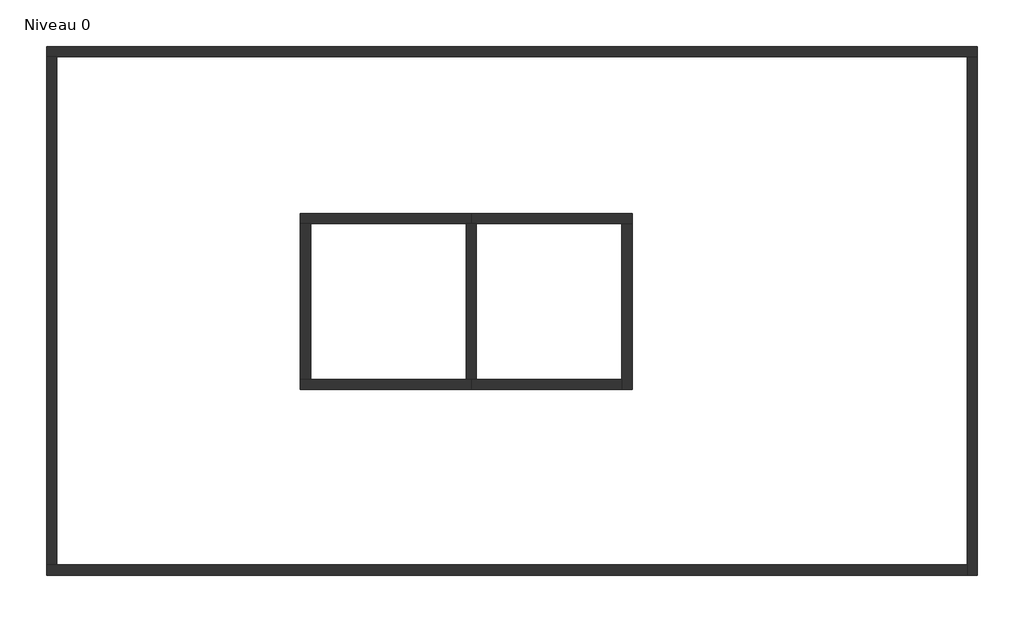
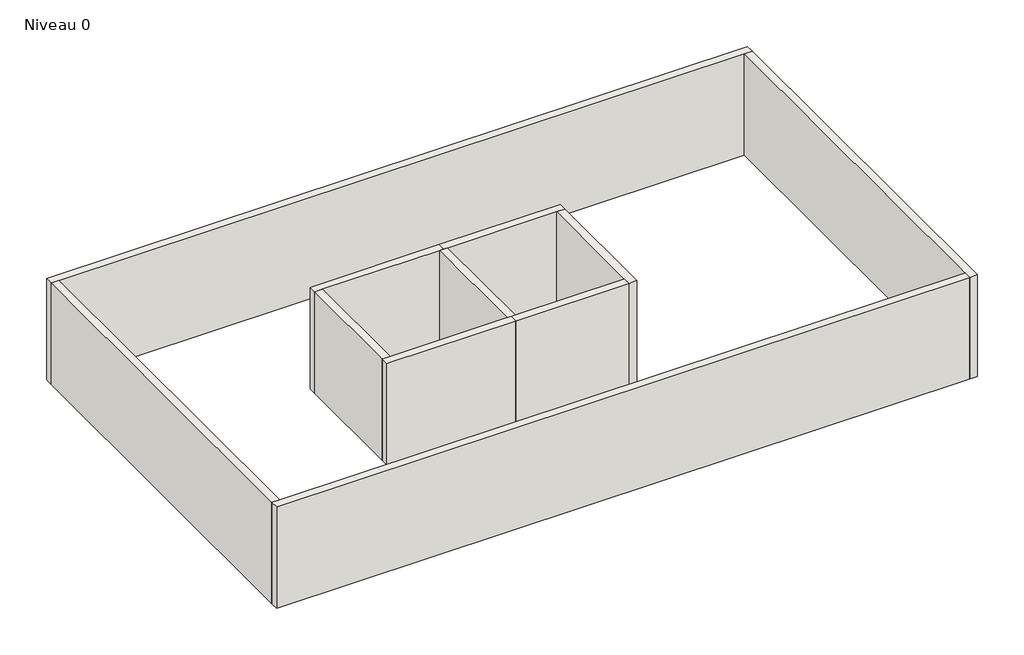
# One storey: 11 walls.
"""IFC4 building model written with IfcOpenShell, lengths in millimetres."""

from ifc_helpers import new_model, si_unit, origin, origin_with_axes, place, context, project, spatial, polyline, outline, extrude, faceted_brep, element, save

model = new_model("IFC4")

# Units and contexts
model_context = context("Model", 3, world=origin())
ifc_project = project(units=[si_unit("LENGTHUNIT", "METRE", prefix="MILLI")], contexts=[model_context])

# Site, building, storey
site = spatial("IfcSite", under=ifc_project)
building = spatial("IfcBuilding", under=site)
storey = spatial("IfcBuildingStorey", under=building, Name="Niveau 0", Elevation=0.0)

# Walls
placement = place(None, origin())
element("IfcWall", 1, ObjectType="Générique - Ext. 200 mm", at=placement, inside=storey, context=model_context, shape_type="Brep", body=[
    faceted_brep([(-13770.3840479, 5478.78796, 0.0), (-13570.3840479, 5478.78796, 0.0), (3980.4882132, 5478.78796, 0.0), (4180.4882132, 5478.78796, 0.0), (4180.4882132, 5478.78796, 2750.0), (3980.4882132, 5478.78796, 2750.0), (-13570.3840479, 5478.78796, 2750.0), (-13770.3840479, 5478.78796, 2750.0), (-13770.3840479, 5678.78796, 0.0), (-13770.3840479, 5678.78796, 2750.0), (4180.4882132, 5678.78796, 2750.0), (4180.4882132, 5678.78796, 0.0)], [[[0, 1, 2, 3, 4, 5, 6, 7]], [[8, 9, 10, 11]], [[3, 2, 1, 0, 8, 11]], [[7, 6, 5, 4, 10, 9]], [[4, 3, 11, 10]], [[0, 7, 9, 8]]]),
])
element("IfcWall", 2, ObjectType="Générique - Ext. 200 mm", at=placement, inside=storey, context=model_context, shape_type="Brep", body=[
    faceted_brep([(3980.4882132, 5478.78796, 0.0), (3980.4882132, -4321.21204, 0.0), (3980.4882132, -4521.21204, 0.0), (3980.4882132, -4521.21204, 2750.0), (3980.4882132, -4321.21204, 2750.0), (3980.4882132, 5478.78796, 2750.0), (4180.4882132, 5478.78796, 0.0), (4180.4882132, 5478.78796, 2750.0), (4180.4882132, -4521.21204, 2750.0), (4180.4882132, -4521.21204, 0.0)], [[[0, 1, 2, 3, 4, 5]], [[6, 7, 8, 9]], [[2, 1, 0, 6, 9]], [[5, 4, 3, 8, 7]], [[0, 5, 7, 6]], [[3, 2, 9, 8]]]),
])
element("IfcWall", 3, ObjectType="Générique - Ext. 200 mm", at=placement, inside=storey, context=model_context, shape_type="Brep", body=[
    faceted_brep([(3980.4882132, -4321.21204, 0.0), (-13570.3840479, -4321.21204, 0.0), (-13770.3840479, -4321.21204, 0.0), (-13770.3840479, -4321.21204, 2750.0), (-13570.3840479, -4321.21204, 2750.0), (3980.4882132, -4321.21204, 2750.0), (3980.4882132, -4521.21204, 0.0), (3980.4882132, -4521.21204, 2750.0), (-13770.3840479, -4521.21204, 2750.0), (-13770.3840479, -4521.21204, 0.0)], [[[0, 1, 2, 3, 4, 5]], [[6, 7, 8, 9]], [[2, 1, 0, 6, 9]], [[5, 4, 3, 8, 7]], [[0, 5, 7, 6]], [[3, 2, 9, 8]]]),
])
element("IfcWall", 4, ObjectType="Générique - Ext. 200 mm", at=placement, inside=storey, context=model_context, shape_type="SweptSolid", body=[
    extrude(outline(polyline([(-13570.3840479, 5478.78796), (-13570.3840479, -4321.21204), (-13770.3840479, -4321.21204), (-13770.3840479, 5478.78796), (-13570.3840479, 5478.78796)])), origin_with_axes(), (0.0, 0.0, 1.0), 2750.0),
])
element("IfcWall", 5, ObjectType="Générique - Ext. 200 mm", at=placement, inside=storey, context=model_context, shape_type="Brep", body=[
    faceted_brep([(-8879.9916109, 2257.7410236, 0.0), (-8679.9916109, 2257.7410236, 0.0), (-5679.9916109, 2257.7410236, 0.0), (-5579.9916109, 2257.7410236, 0.0), (-5579.9916109, 2257.7410236, 2750.0), (-5679.9916109, 2257.7410236, 2750.0), (-8679.9916109, 2257.7410236, 2750.0), (-8879.9916109, 2257.7410236, 2750.0), (-8879.9916109, 2457.7410236, 0.0), (-8879.9916109, 2457.7410236, 2750.0), (-5579.9916109, 2457.7410236, 2750.0), (-5579.9916109, 2457.7410236, 0.0)], [[[0, 1, 2, 3, 4, 5, 6, 7]], [[8, 9, 10, 11]], [[3, 2, 1, 0, 8, 11]], [[4, 3, 11, 10]], [[7, 6, 5, 4, 10, 9]], [[0, 7, 9, 8]]]),
])
element("IfcWall", 6, ObjectType="Générique - Ext. 200 mm", at=placement, inside=storey, context=model_context, shape_type="Brep", body=[
    faceted_brep([(-5679.9916109, 2257.7410236, 0.0), (-5679.9916109, -742.2589764, 0.0), (-5679.9916109, -742.2589764, 2750.0), (-5679.9916109, 2257.7410236, 2750.0), (-5479.9916109, 2257.7410236, 0.0), (-5479.9916109, 2257.7410236, 2750.0), (-5479.9916109, -742.2589764, 2750.0), (-5479.9916109, -742.2589764, 0.0), (-5579.9916109, 2257.7410236, 0.0), (-5579.9916109, -742.2589764, 0.0), (-5579.9916109, -742.2589764, 2750.0), (-5579.9916109, 2257.7410236, 2750.0)], [[[0, 1, 2, 3]], [[4, 5, 6, 7]], [[1, 0, 8, 4, 7, 9]], [[3, 2, 10, 6, 5, 11]], [[0, 3, 11, 5, 4, 8]], [[2, 1, 9, 7, 6, 10]]]),
])
element("IfcWall", 7, ObjectType="Générique - Ext. 200 mm", at=placement, inside=storey, context=model_context, shape_type="SweptSolid", body=[
    extrude(outline(polyline([(-8679.9916109, 2257.7410236), (-8679.9916109, -742.2589764), (-8879.9916109, -742.2589764), (-8879.9916109, 2257.7410236), (-8679.9916109, 2257.7410236)])), origin_with_axes(), (0.0, 0.0, 1.0), 2750.0),
])
element("IfcWall", 8, ObjectType="Générique - Ext. 200 mm", at=placement, inside=storey, context=model_context, shape_type="Brep", body=[
    faceted_brep([(-2679.9916109, 2257.7410236, 0.0), (-2679.9916109, -742.2589764, 0.0), (-2679.9916109, -942.2589764, 0.0), (-2679.9916109, -942.2589764, 2750.0), (-2679.9916109, -742.2589764, 2750.0), (-2679.9916109, 2257.7410236, 2750.0), (-2479.9916109, 2257.7410236, 0.0), (-2479.9916109, 2257.7410236, 2750.0), (-2479.9916109, -942.2589764, 2750.0), (-2479.9916109, -942.2589764, 0.0)], [[[0, 1, 2, 3, 4, 5]], [[6, 7, 8, 9]], [[2, 1, 0, 6, 9]], [[5, 4, 3, 8, 7]], [[0, 5, 7, 6]], [[3, 2, 9, 8]]]),
])
element("IfcWall", 9, ObjectType="Générique - Ext. 200 mm", at=placement, inside=storey, context=model_context, shape_type="Brep", body=[
    faceted_brep([(-5579.9916109, 2257.7410236, 0.0), (-5479.9916109, 2257.7410236, 0.0), (-2679.9916109, 2257.7410236, 0.0), (-2479.9916109, 2257.7410236, 0.0), (-2479.9916109, 2257.7410236, 2750.0), (-2679.9916109, 2257.7410236, 2750.0), (-5479.9916109, 2257.7410236, 2750.0), (-5579.9916109, 2257.7410236, 2750.0), (-5579.9916109, 2457.7410236, 0.0), (-5579.9916109, 2457.7410236, 2750.0), (-2479.9916109, 2457.7410236, 2750.0), (-2479.9916109, 2457.7410236, 0.0)], [[[0, 1, 2, 3, 4, 5, 6, 7]], [[8, 9, 10, 11]], [[3, 2, 1, 0, 8, 11]], [[7, 6, 5, 4, 10, 9]], [[0, 7, 9, 8]], [[4, 3, 11, 10]]]),
])
element("IfcWall", 10, ObjectType="Générique - Ext. 200 mm", at=placement, inside=storey, context=model_context, shape_type="Brep", body=[
    faceted_brep([(-2679.9916109, -742.2589764, 0.0), (-5479.9916109, -742.2589764, 0.0), (-5579.9916109, -742.2589764, 0.0), (-5579.9916109, -742.2589764, 2750.0), (-5479.9916109, -742.2589764, 2750.0), (-2679.9916109, -742.2589764, 2750.0), (-2679.9916109, -942.2589764, 0.0), (-2679.9916109, -942.2589764, 2750.0), (-5579.9916109, -942.2589764, 2750.0), (-5579.9916109, -942.2589764, 0.0)], [[[0, 1, 2, 3, 4, 5]], [[6, 7, 8, 9]], [[2, 1, 0, 6, 9]], [[3, 2, 9, 8]], [[5, 4, 3, 8, 7]], [[0, 5, 7, 6]]]),
])
element("IfcWall", 11, ObjectType="Générique - Ext. 200 mm", at=placement, inside=storey, context=model_context, shape_type="Brep", body=[
    faceted_brep([(-5579.9916109, -742.2589764, 0.0), (-5679.9916109, -742.2589764, 0.0), (-8679.9916109, -742.2589764, 0.0), (-8879.9916109, -742.2589764, 0.0), (-8879.9916109, -742.2589764, 2750.0), (-8679.9916109, -742.2589764, 2750.0), (-5679.9916109, -742.2589764, 2750.0), (-5579.9916109, -742.2589764, 2750.0), (-5579.9916109, -942.2589764, 0.0), (-5579.9916109, -942.2589764, 2750.0), (-8879.9916109, -942.2589764, 2750.0), (-8879.9916109, -942.2589764, 0.0)], [[[0, 1, 2, 3, 4, 5, 6, 7]], [[8, 9, 10, 11]], [[3, 2, 1, 0, 8, 11]], [[7, 6, 5, 4, 10, 9]], [[0, 7, 9, 8]], [[4, 3, 11, 10]]]),
])

save(model, "model.ifc")
